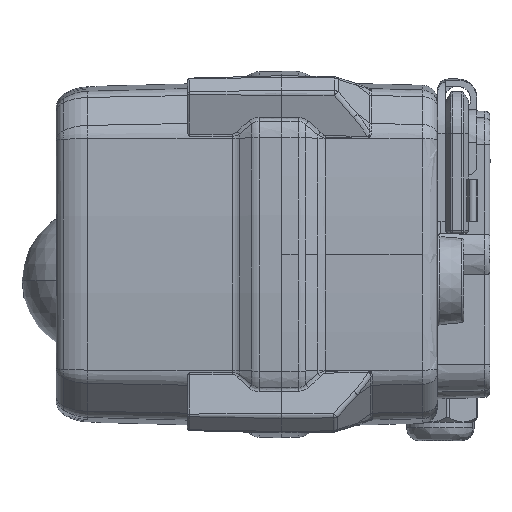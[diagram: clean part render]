
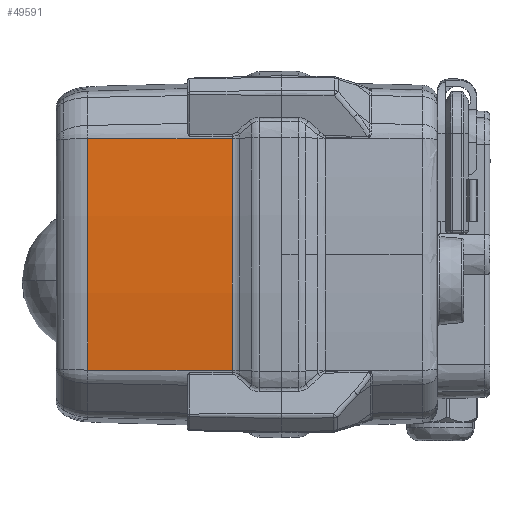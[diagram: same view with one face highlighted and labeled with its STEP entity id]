
A CAD part, left-side view. The second image highlights one B-rep face of the part: STEP entity #49591.
In plain terms, the highlighted conical face has half-angle 1.5 degrees and reference radius 288.5 mm.
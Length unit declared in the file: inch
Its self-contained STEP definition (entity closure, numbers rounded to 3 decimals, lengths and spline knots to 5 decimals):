
#411 = CARTESIAN_POINT ( 'NONE',  ( -1.89561, 0., -0.87203 ) ) ;
#2564 = AXIS2_PLACEMENT_3D ( 'NONE', #28956, #74278, #35497 ) ;
#5843 = ORIENTED_EDGE ( 'NONE', *, *, #50094, .T. ) ;
#5929 = CARTESIAN_POINT ( 'NONE',  ( -1.85758, 1.45669, 0.8691 ) ) ;
#10202 = VECTOR ( 'NONE', #39595, 39.37008 ) ;
#10803 = ORIENTED_EDGE ( 'NONE', *, *, #41302, .F. ) ;
#15318 = DIRECTION ( 'NONE',  ( -0.026, -1., 0.002 ) ) ;
#18363 = CARTESIAN_POINT ( 'NONE',  ( -1.88596, 0.3697, 0.87129 ) ) ;
#21725 = CIRCLE ( 'NONE', #33527, 11.34859 ) ;
#28956 = CARTESIAN_POINT ( 'NONE',  ( 9.42913, 1.45669, 0. ) ) ;
#33154 = VERTEX_POINT ( 'NONE', #18363 ) ;
#33240 = LINE ( 'NONE', #60728, #48472 ) ;
#33527 = AXIS2_PLACEMENT_3D ( 'NONE', #73401, #34613, #79937 ) ;
#33679 = CARTESIAN_POINT ( 'NONE',  ( -1.85758, 1.45669, -0.8691 ) ) ;
#34613 = DIRECTION ( 'NONE',  ( 0., 1., 0. ) ) ;
#35497 = DIRECTION ( 'NONE',  ( 0., 0., -1. ) ) ;
#36925 = EDGE_CURVE ( 'NONE', #48943, #54167, #62008, .T. ) ;
#39595 = DIRECTION ( 'NONE',  ( -0.026, -1., -0.002 ) ) ;
#41302 = EDGE_CURVE ( 'NONE', #48943, #78577, #46658, .T. ) ;
#41546 = DIRECTION ( 'NONE',  ( 0., -1., 0. ) ) ;
#44385 = ORIENTED_EDGE ( 'NONE', *, *, #36925, .T. ) ;
#45244 = ORIENTED_EDGE ( 'NONE', *, *, #81219, .F. ) ;
#46658 = CIRCLE ( 'NONE', #2564, 11.32012 ) ;
#48032 = CARTESIAN_POINT ( 'NONE',  ( 9.42913, 0., 0. ) ) ;
#48472 = VECTOR ( 'NONE', #15318, 39.37008 ) ;
#48943 = VERTEX_POINT ( 'NONE', #33679 ) ;
#49591 = ADVANCED_FACE ( 'NONE', ( #61335 ), #76489, .T. ) ;
#50094 = EDGE_CURVE ( 'NONE', #54167, #33154, #21725, .T. ) ;
#50965 = CARTESIAN_POINT ( 'NONE',  ( -1.88596, 0.3697, -0.87129 ) ) ;
#54167 = VERTEX_POINT ( 'NONE', #50965 ) ;
#54580 = DIRECTION ( 'NONE',  ( 0., 0., 1. ) ) ;
#54766 = EDGE_LOOP ( 'NONE', ( #44385, #5843, #45244, #10803 ) ) ;
#60728 = CARTESIAN_POINT ( 'NONE',  ( -1.89561, 0., 0.87203 ) ) ;
#61335 = FACE_OUTER_BOUND ( 'NONE', #54766, .T. ) ;
#62008 = LINE ( 'NONE', #411, #10202 ) ;
#67178 = AXIS2_PLACEMENT_3D ( 'NONE', #48032, #41546, #54580 ) ;
#73401 = CARTESIAN_POINT ( 'NONE',  ( 9.42913, 0.3697, 0. ) ) ;
#74278 = DIRECTION ( 'NONE',  ( 0., 1., 0. ) ) ;
#76489 = CONICAL_SURFACE ( 'NONE', #67178, 11.35827, 0.026 ) ;
#78577 = VERTEX_POINT ( 'NONE', #5929 ) ;
#79937 = DIRECTION ( 'NONE',  ( 0., 0., -1. ) ) ;
#81219 = EDGE_CURVE ( 'NONE', #78577, #33154, #33240, .T. ) ;
